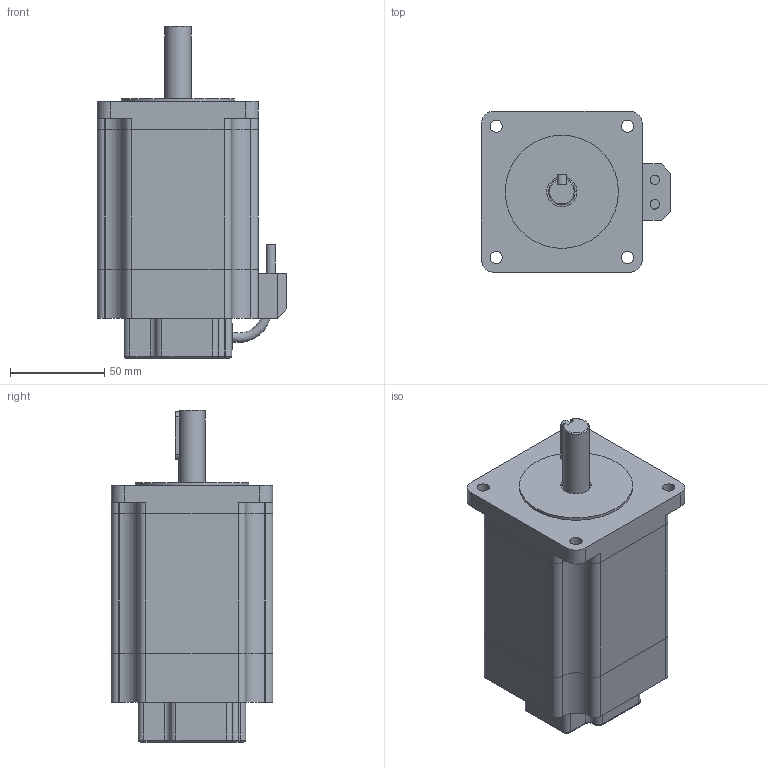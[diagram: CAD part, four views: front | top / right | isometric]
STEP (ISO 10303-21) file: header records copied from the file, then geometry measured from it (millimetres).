
FILE_DESCRIPTION(/* description */ (''),/* implementation_level */ '2;1');
FILE_NAME(/* name */ 'STP-86D4001.stp',/* time_stamp */ '2018-08-31T16:24:51+08:00',/* author */ (''),/* organization */ (''),/* preprocessor_version */ 'ST-DEVELOPER v11',/* originating_system */ 'SIEMENS UGS NX 6.0',/* authorisation */ '');
FILE_SCHEMA (('CONFIG_CONTROL_DESIGN'));
Length unit declared in the file: millimetre
Products named in the file (1): STP-86D4001
Bounding box: 100.5 x 85.5 x 176 mm (x, y, z)
Volume: 838323.7 mm3; surface area: 88245.6 mm2
Topology: 5 solids, 5 shells, 178 faces, 455 edges, 296 vertices
Faces by surface type: plane 87, cylinder 76, torus 15
Full cylindrical faces by diameter (mm): 5 x2, 6.5 x4, 14 x1, 16 x1, 60 x1
Entity records: 5567 total; most frequent: CARTESIAN_POINT 1083, DIRECTION 958, ORIENTED_EDGE 878, EDGE_CURVE 439, AXIS2_PLACEMENT_3D 345, VERTEX_POINT 291, LINE 268, VECTOR 268
